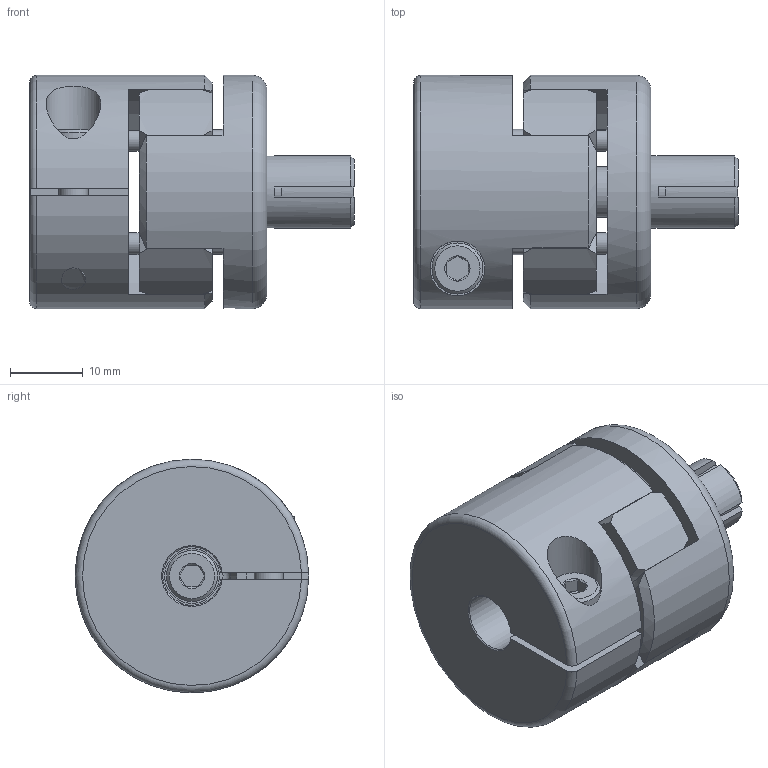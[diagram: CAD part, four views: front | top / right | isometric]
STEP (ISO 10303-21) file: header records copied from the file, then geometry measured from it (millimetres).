
FILE_DESCRIPTION(/* description */ ('STEP AP214'),/* implementation_level */ '2;1');
FILE_NAME(/* name */ 'EKS 8 - D1=8 D2=10',/* time_stamp */ '2026-10-28T12:29:20+01:00',/* author */ ('License CC BY-ND 4.0'),/* organization */ ('CADENAS'),/* preprocessor_version */ 'ST-DEVELOPER v20',/* originating_system */ 'PARTsolutions',/* authorisation */ ' ');
FILE_SCHEMA (('AUTOMOTIVE_DESIGN {1 0 10303 214 3 1 1}'));
Length unit declared in the file: millimetre
Products named in the file (6): EKS 8 - D1=8 D2=10; EKS 8 - D1=8_1_part1; 8; EKS 8 - D2=10_part2; Cylinder screw ISO 4762 M4x14; Cylinder screw ISO 4762 M4x12
Assembly tree (5 placements, depth 2):
  EKS 8 - D1=8 D2=10
    EKS 8 - D1=8_1_part1
    8
    EKS 8 - D2=10_part2
    Cylinder screw ISO 4762 M4x14
    Cylinder screw ISO 4762 M4x12
Bounding box: 44.5 x 32 x 32 mm (x, y, z)
Volume: 22732.8 mm3; surface area: 11200 mm2
Topology: 5 solids, 5 shells, 185 faces, 439 edges, 270 vertices
Faces by surface type: cone 69, plane 57, cylinder 51, torus 8
Full cylindrical faces by diameter (mm): 3 x4, 3.2 x1, 3.3 x1, 4 x2, 4.3 x2, 7 x3, 7.5 x2, 8.5 x1, 10 x1, 10.5 x2, 32 x1
Entity records: 5818 total; most frequent: CARTESIAN_POINT 1167, DIRECTION 888, ORIENTED_EDGE 792, EDGE_CURVE 396, AXIS2_PLACEMENT_3D 392, VERTEX_POINT 266, EDGE_LOOP 244, FACE_BOUND 244
